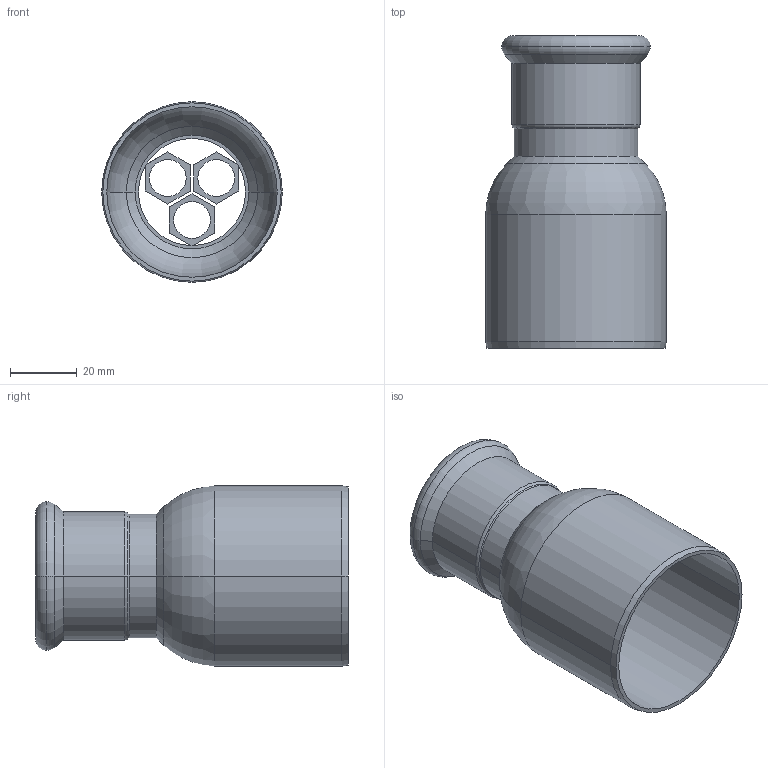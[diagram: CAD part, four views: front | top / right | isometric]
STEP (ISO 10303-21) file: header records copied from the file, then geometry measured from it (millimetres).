
FILE_DESCRIPTION(('OneSpaceDesigner STEP Export'),'2;1');
FILE_NAME('R2707 35x54.stp','2010-06-09T13:41:37',(''),(''),'OneSpace Designer STEP processor for AP214 (Solid Model)','OneSpace Modeling 15.00A 14-Mar-2007 (C) CoCreate Software GmbH','');
FILE_SCHEMA(('AUTOMOTIVE_DESIGN { 1 0 10303 214 1 1 1 1 }'));
Length unit declared in the file: millimetre
Products named in the file (2): R2707_35x54
Assembly tree (1 placements, depth 2):
  R2707_35x54
    R2707_35x54
Bounding box: 54 x 93.5 x 54 mm (x, y, z)
Volume: 23994.6 mm3; surface area: 29364.3 mm2
Topology: 1 solids, 1 shells, 74 faces, 175 edges, 108 vertices
Faces by surface type: plane 31, cylinder 23, cone 10, torus 10
Entity records: 1888 total; most frequent: ORIENTED_EDGE 350, CARTESIAN_POINT 299, DIRECTION 283, EDGE_CURVE 175, VERTEX_POINT 108, VECTOR 99, LINE 99, AXIS2_PLACEMENT_3D 92
